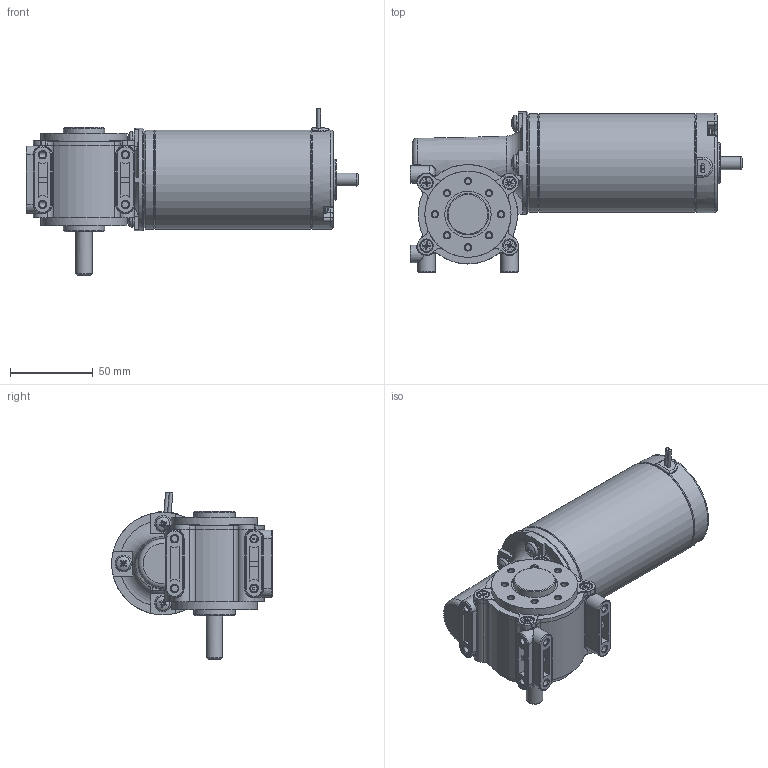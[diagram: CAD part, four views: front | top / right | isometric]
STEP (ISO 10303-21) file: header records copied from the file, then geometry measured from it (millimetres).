
FILE_DESCRIPTION(/* description */ (''),/* implementation_level */ '2;1');
FILE_NAME(/* name */ 'D:\yang\Yang cw\SPG 업무\7. 2D_3D 도면\3D 도면\RA TYPE\표준 RA TYPE 3D\RA61ㅁㅁL.stp',/* time_stamp */ '2017-09-29T15:19:23+09:00',/* author */ ('ycw1227'),/* organization */ (''),/* preprocessor_version */ 'ST-DEVELOPER v15.6',/* originating_system */ 'Autodesk Inventor 2015',/* authorisation */ '');
FILE_SCHEMA (('AUTOMOTIVE_DESIGN { 1 0 10303 214 3 1 1 }'));
Length unit declared in the file: millimetre
Products named in the file (1): 부품35
Bounding box: 200.5 x 97 x 101.03 mm (x, y, z)
Volume: 417365.1 mm3; surface area: 100294.2 mm2
Topology: 1 solids, 14 shells, 1081 faces, 2697 edges, 1719 vertices
Faces by surface type: plane 481, cylinder 273, cone 205, torus 75, bspline 36, sphere 11
Full cylindrical faces by diameter (mm): 2.2 x2, 3 x2, 3.242 x2, 3.4 x24, 3.571 x6, 4 x2, 4.1 x8, 4.134 x6, 4.2 x4, 4.51 x3, 4.6 x2, 5 x3, 7 x4, 8 x2, 8.2 x4, 9 x2, 10 x2, 16 x4, 22 x2, 24 x2, 24.9 x1, 25 x3, 28 x2, 30 x2, 32 x1, 35 x1, 47 x1, 51 x1, 52 x2, 53 x1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
Entity records: 34998 total; most frequent: CARTESIAN_POINT 9605, DIRECTION 5104, ORIENTED_EDGE 4858, EDGE_CURVE 2427, AXIS2_PLACEMENT_3D 2098, VERTEX_POINT 1659, EDGE_LOOP 1392, FACE_OUTER_BOUND 1081
